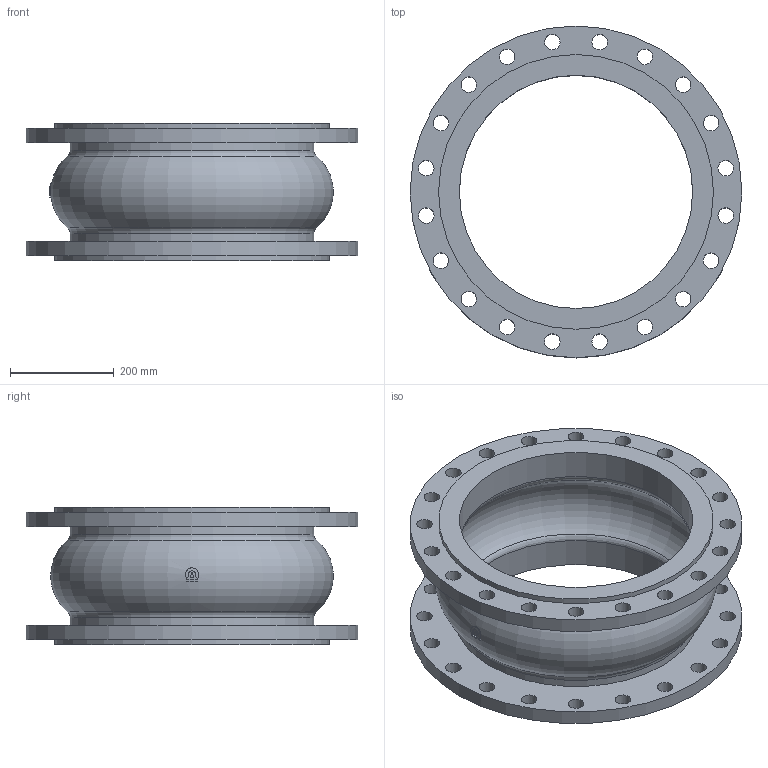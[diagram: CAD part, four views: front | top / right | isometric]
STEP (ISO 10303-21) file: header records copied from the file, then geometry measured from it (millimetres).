
FILE_DESCRIPTION(('STEP AP203'), '1');
FILE_NAME('Êîìïåíñàòîð KMS DN450 PN16', '', ('UNSPECIFIED'), ('UNSPECIFIED'), 'ASCON STEP Converter 1.6', 'ASCON Math Kernel', '');
FILE_SCHEMA(('CONFIG_CONTROL_DESIGN'));
Length unit declared in the file: millimetre
Bounding box: 640 x 640 x 265 mm (x, y, z)
Volume: 12765053.2 mm3; surface area: 1586291.5 mm2
Topology: 1 solids, 1 shells, 77 faces, 196 edges, 128 vertices
Faces by surface type: cylinder 55, plane 13, torus 9
Full cylindrical faces by diameter (mm): 30 x40, 450 x2, 470 x2, 530 x2, 640 x2
Entity records: 3934 total; most frequent: CARTESIAN_POINT 1409, DIRECTION 382, ORIENTED_EDGE 284, EDGE_LOOP 220, AXIS2_PLACEMENT_3D 184, EDGE_CURVE 142, VERTEX_POINT 128, FACE_BOUND 112
